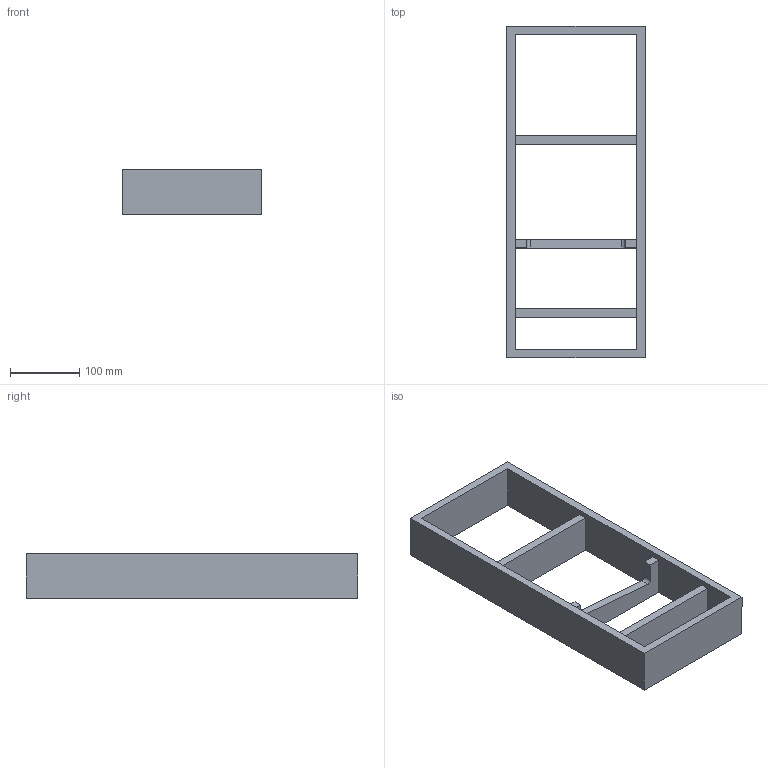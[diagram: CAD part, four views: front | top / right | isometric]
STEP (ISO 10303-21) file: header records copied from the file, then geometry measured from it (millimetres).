
FILE_DESCRIPTION (( 'STEP AP214' ), '1' );
FILE_NAME ('Vario Messer_Modul_H65_NL500_B200_ZE_Alu_Buche.step', '2010-10-07T06:11:52', ( 'grass' ), ( '' ), 'SwSTEP 2.0', 'SolidWorks 2010', '' );
FILE_SCHEMA (( 'AUTOMOTIVE_DESIGN' ));
Length unit declared in the file: millimetre
Products named in the file (1): Vario Messer_Modul_H65_NL500_B200_ZE_Alu_Buche
Bounding box: 200 x 479 x 65 mm (x, y, z)
Volume: 1338778.9 mm3; surface area: 263715.5 mm2
Topology: 1 solids, 1 shells, 25 faces, 78 edges, 52 vertices
Faces by surface type: plane 23, cylinder 2
Entity records: 906 total; most frequent: ORIENTED_EDGE 156, CARTESIAN_POINT 156, DIRECTION 134, EDGE_CURVE 78, LINE 74, VECTOR 74, VERTEX_POINT 52, EDGE_LOOP 30
